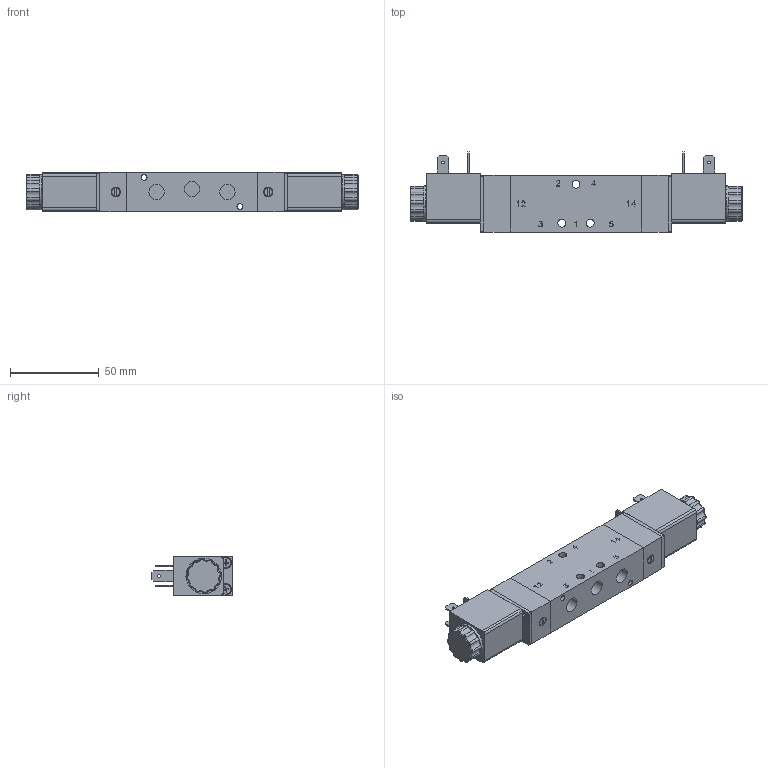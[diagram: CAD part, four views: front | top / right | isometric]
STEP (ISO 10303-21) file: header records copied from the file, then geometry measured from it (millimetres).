
FILE_DESCRIPTION (( 'STEP AP214' ), '1' );
FILE_NAME ('ICK-09-530-HN-F12_Airtec.step', '2019-01-08T09:01:02', ( '' ), ( '' ), 'SwSTEP 2.0', 'SolidWorks 2010', '' );
FILE_SCHEMA (( 'AUTOMOTIVE_DESIGN' ));
Length unit declared in the file: millimetre
Products named in the file (3): Volumenkörper3; Volumenkörper1; ICK-09-530-HN-F12_Airtec
Assembly tree (3 placements, depth 2):
  ICK-09-530-HN-F12_Airtec
    Volumenkörper3
    Volumenkörper1  x2
Bounding box: 187.2 x 45.2 x 22 mm (x, y, z)
Volume: 113728.3 mm3; surface area: 32657.8 mm2
Topology: 3 solids, 3 shells, 1090 faces, 2873 edges, 1856 vertices
Faces by surface type: plane 605, cylinder 206, cone 132, torus 115, bspline 32
Entity records: 42275 total; most frequent: CARTESIAN_POINT 9296, ORIENTED_EDGE 5506, DIRECTION 5382, EDGE_CURVE 2753, AXIS2_PLACEMENT_3D 1831, VERTEX_POINT 1779, VECTOR 1720, LINE 1720
